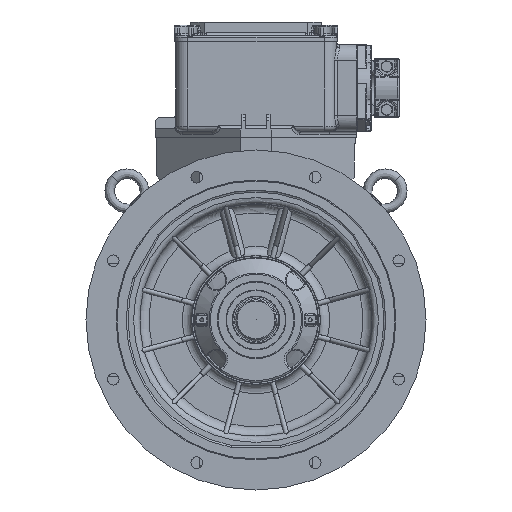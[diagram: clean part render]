
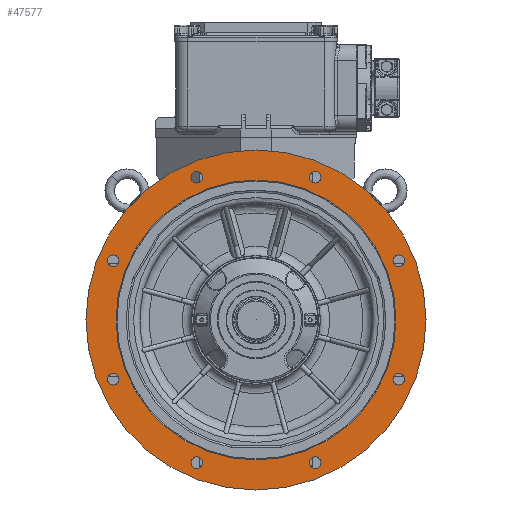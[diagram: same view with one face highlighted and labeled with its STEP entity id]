
A CAD part, left-side view. The second image highlights one B-rep face of the part: STEP entity #47577.
In plain terms, the highlighted planar face has unit normal (-1, 0, 0) by its records, which use the part's own axes.
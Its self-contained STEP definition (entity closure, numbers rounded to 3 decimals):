
#7603=PLANE('',#50819);
#15955=ORIENTED_EDGE('',*,*,#21981,.F.);
#15956=ORIENTED_EDGE('',*,*,#21983,.F.);
#15957=ORIENTED_EDGE('',*,*,#21985,.F.);
#15958=ORIENTED_EDGE('',*,*,#21987,.F.);
#15959=ORIENTED_EDGE('',*,*,#21989,.F.);
#15960=ORIENTED_EDGE('',*,*,#21991,.F.);
#15961=ORIENTED_EDGE('',*,*,#21993,.F.);
#15962=ORIENTED_EDGE('',*,*,#21995,.F.);
#15963=ORIENTED_EDGE('',*,*,#22012,.T.);
#15964=ORIENTED_EDGE('',*,*,#22013,.F.);
#21981=EDGE_CURVE('',#25493,#25493,#27319,.T.);
#21983=EDGE_CURVE('',#25495,#25495,#27321,.T.);
#21985=EDGE_CURVE('',#25497,#25497,#27323,.T.);
#21987=EDGE_CURVE('',#25499,#25499,#27325,.T.);
#21989=EDGE_CURVE('',#25501,#25501,#27327,.T.);
#21991=EDGE_CURVE('',#25503,#25503,#27329,.T.);
#21993=EDGE_CURVE('',#25505,#25505,#27331,.T.);
#21995=EDGE_CURVE('',#25507,#25507,#27333,.T.);
#22012=EDGE_CURVE('',#25524,#25524,#27347,.T.);
#22013=EDGE_CURVE('',#25525,#25525,#27348,.F.);
#25493=VERTEX_POINT('',#75674);
#25495=VERTEX_POINT('',#75679);
#25497=VERTEX_POINT('',#75684);
#25499=VERTEX_POINT('',#75689);
#25501=VERTEX_POINT('',#75694);
#25503=VERTEX_POINT('',#75699);
#25505=VERTEX_POINT('',#75704);
#25507=VERTEX_POINT('',#75709);
#25524=VERTEX_POINT('',#75747);
#25525=VERTEX_POINT('',#75749);
#27319=CIRCLE('',#50781,9.5);
#27321=CIRCLE('',#50784,9.5);
#27323=CIRCLE('',#50787,9.5);
#27325=CIRCLE('',#50790,9.5);
#27327=CIRCLE('',#50793,9.5);
#27329=CIRCLE('',#50796,9.5);
#27331=CIRCLE('',#50799,9.5);
#27333=CIRCLE('',#50802,9.5);
#27347=CIRCLE('',#50820,226.4);
#27348=CIRCLE('',#50821,275.);
#29261=EDGE_LOOP('',(#15955));
#29262=EDGE_LOOP('',(#15956));
#29263=EDGE_LOOP('',(#15957));
#29264=EDGE_LOOP('',(#15958));
#29265=EDGE_LOOP('',(#15959));
#29266=EDGE_LOOP('',(#15960));
#29267=EDGE_LOOP('',(#15961));
#29268=EDGE_LOOP('',(#15962));
#29269=EDGE_LOOP('',(#15963));
#29270=EDGE_LOOP('',(#15964));
#31411=FACE_BOUND('',#29261,.T.);
#31412=FACE_BOUND('',#29262,.T.);
#31413=FACE_BOUND('',#29263,.T.);
#31414=FACE_BOUND('',#29264,.T.);
#31415=FACE_BOUND('',#29265,.T.);
#31416=FACE_BOUND('',#29266,.T.);
#31417=FACE_BOUND('',#29267,.T.);
#31418=FACE_BOUND('',#29268,.T.);
#31419=FACE_BOUND('',#29269,.T.);
#31420=FACE_BOUND('',#29270,.T.);
#47577=ADVANCED_FACE('',(#31411,#31412,#31413,#31414,#31415,#31416,#31417,
#31418,#31419,#31420),#7603,.T.);
#50781=AXIS2_PLACEMENT_3D('',#75673,#59147,#59148);
#50784=AXIS2_PLACEMENT_3D('',#75678,#59153,#59154);
#50787=AXIS2_PLACEMENT_3D('',#75683,#59159,#59160);
#50790=AXIS2_PLACEMENT_3D('',#75688,#59165,#59166);
#50793=AXIS2_PLACEMENT_3D('',#75693,#59171,#59172);
#50796=AXIS2_PLACEMENT_3D('',#75698,#59177,#59178);
#50799=AXIS2_PLACEMENT_3D('',#75703,#59183,#59184);
#50802=AXIS2_PLACEMENT_3D('',#75708,#59189,#59190);
#50819=AXIS2_PLACEMENT_3D('',#75745,#59226,#59227);
#50820=AXIS2_PLACEMENT_3D('',#75746,#59228,#59229);
#50821=AXIS2_PLACEMENT_3D('',#75748,#59230,#59231);
#59147=DIRECTION('',(-1.,0.,0.));
#59148=DIRECTION('',(0.,-1.,0.));
#59153=DIRECTION('',(-1.,0.,0.));
#59154=DIRECTION('',(0.,-1.,0.));
#59159=DIRECTION('',(-1.,0.,0.));
#59160=DIRECTION('',(0.,-1.,0.));
#59165=DIRECTION('',(-1.,0.,0.));
#59166=DIRECTION('',(0.,-1.,0.));
#59171=DIRECTION('',(-1.,0.,0.));
#59172=DIRECTION('',(0.,-1.,0.));
#59177=DIRECTION('',(-1.,0.,0.));
#59178=DIRECTION('',(0.,-1.,0.));
#59183=DIRECTION('',(-1.,0.,0.));
#59184=DIRECTION('',(0.,-1.,0.));
#59189=DIRECTION('',(-1.,0.,0.));
#59190=DIRECTION('',(0.,-1.,0.));
#59226=DIRECTION('',(-1.,0.,0.));
#59227=DIRECTION('',(0.,0.,1.));
#59228=DIRECTION('',(1.,0.,0.));
#59229=DIRECTION('',(0.,0.,-1.));
#59230=DIRECTION('',(-1.,0.,0.));
#59231=DIRECTION('',(0.,0.,1.));
#75673=CARTESIAN_POINT('',(-90.,-230.97,95.671));
#75674=CARTESIAN_POINT('',(-90.,-240.47,95.671));
#75678=CARTESIAN_POINT('',(-90.,-230.97,-95.671));
#75679=CARTESIAN_POINT('',(-90.,-240.47,-95.671));
#75683=CARTESIAN_POINT('',(-90.,-95.671,-230.97));
#75684=CARTESIAN_POINT('',(-90.,-105.171,-230.97));
#75688=CARTESIAN_POINT('',(-90.,95.671,-230.97));
#75689=CARTESIAN_POINT('',(-90.,86.171,-230.97));
#75693=CARTESIAN_POINT('',(-90.,230.97,-95.671));
#75694=CARTESIAN_POINT('',(-90.,221.47,-95.671));
#75698=CARTESIAN_POINT('',(-90.,230.97,95.671));
#75699=CARTESIAN_POINT('',(-90.,221.47,95.671));
#75703=CARTESIAN_POINT('',(-90.,95.671,230.97));
#75704=CARTESIAN_POINT('',(-90.,86.171,230.97));
#75708=CARTESIAN_POINT('',(-90.,-95.671,230.97));
#75709=CARTESIAN_POINT('',(-90.,-105.171,230.97));
#75745=CARTESIAN_POINT('',(-90.,0.,-280.019));
#75746=CARTESIAN_POINT('',(-90.,0.,0.));
#75747=CARTESIAN_POINT('',(-90.,0.,-226.4));
#75748=CARTESIAN_POINT('',(-90.,0.,0.));
#75749=CARTESIAN_POINT('',(-90.,0.,275.));
